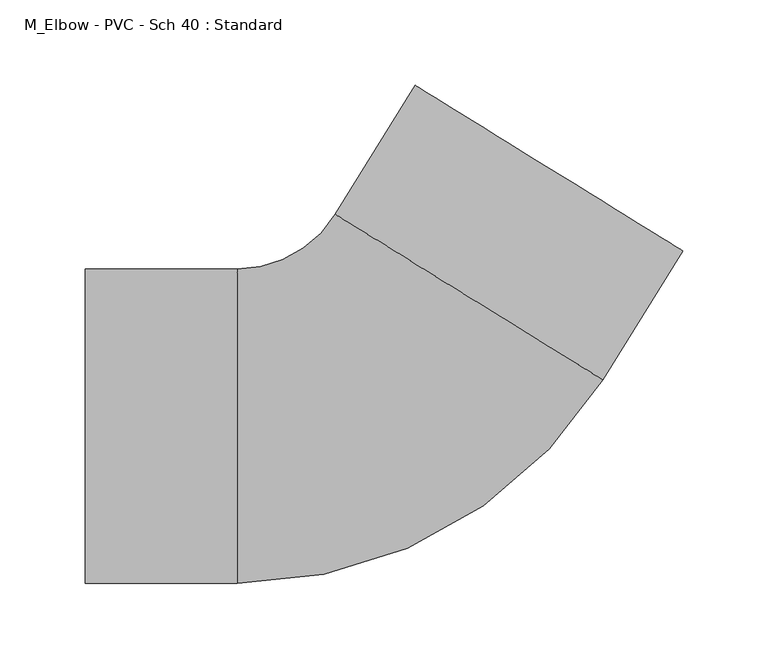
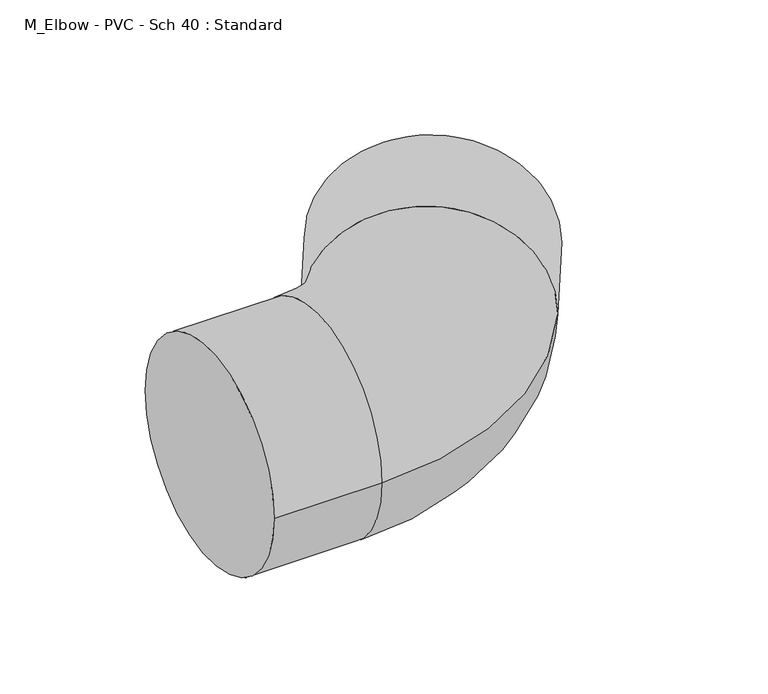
"""IFC4 building model written with IfcOpenShell, lengths in millimetres: pipe fitting geometry, M_Elbow - PVC - Sch 40 : Standard."""

from ifc_helpers import new_model, si_unit, point, frame, origin, place, context, project, spatial, circle_curve, ellipse_curve, trimmed, source, transform, mapped, element, save
from ifc_brep_helpers import plane_surface, cylinder_surface, revolved_surface, advanced_brep


def m_elbow_pvc_sch_40_standard_b928e138(model_context):
    return source(origin(), model_context, "Body", "AdvancedBrep", [
        advanced_brep(
        [(-177.8, -92.075, 0.0), (-177.8, 92.075, 0.0), (-88.9, -92.075, 0.0), (-88.9, 92.075, 0.0), (-31.4681718, 124.0595413, 0.0), (125.0870036, 27.0971798, 0.0), (171.8964195, 102.6755403, 0.0), (15.3412441, 199.6379018, 0.0)],
        [
            (0, 1, circle_curve(frame((-177.8, 0.0, 0.0), z_axis=(-1.0, 0.0, 0.0), x_axis=(0.0, 1.0, 0.0)), 92.075)),
            (1, 0, circle_curve(frame((-177.8, 0.0, 0.0), z_axis=(-1.0, 0.0, 0.0), x_axis=(0.0, 1.0, 0.0)), 92.075)),
            (0, 2),
            (2, 3, circle_curve(frame((-88.9, 0.0, 0.0), z_axis=(-1.0, 0.0, 0.0), x_axis=(0.0, 1.0, 0.0)), 92.075)),
            (3, 1),
            (3, 2, circle_curve(frame((-88.9, 0.0, 0.0), z_axis=(-1.0, 0.0, 0.0), x_axis=(0.0, 1.0, 0.0)), 92.075)),
            (4, 3, circle_curve(frame((-88.9, 159.6299124, 0.0), z_axis=(0.0, 0.0, -1.0), x_axis=(0.0, -1.0, 0.0)), 67.5549124)),
            (2, 5, circle_curve(frame((-88.9, 159.6299124, 0.0), z_axis=(0.0, 0.0, 1.0), x_axis=(0.0, -1.0, 0.0)), 251.7049124)),
            (5, 4, circle_curve(frame((46.8094159, 75.5783605, 0.0), z_axis=(-0.5265401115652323, -0.85015028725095, 0.0), x_axis=(-0.85015028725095, 0.5265401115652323, 0.0)), 92.075)),
            (4, 5, circle_curve(frame((46.8094159, 75.5783605, 0.0), z_axis=(-0.5265401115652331, -0.8501502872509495, 0.0), x_axis=(-0.8501502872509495, 0.5265401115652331, 0.0)), 92.075)),
            (6, 7, circle_curve(frame((93.6188318, 151.1567211, 0.0), z_axis=(0.5265401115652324, 0.8501502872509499, 0.0), x_axis=(-0.8501502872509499, 0.5265401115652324, 0.0)), 92.075)),
            (7, 6, circle_curve(frame((93.6188318, 151.1567211, 0.0), z_axis=(0.5265401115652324, 0.8501502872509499, 0.0), x_axis=(-0.8501502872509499, 0.5265401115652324, 0.0)), 92.075)),
            (5, 6),
            (7, 4),
        ],
        [
            plane_surface(frame((-177.8, 0.0, 0.0), z_axis=(-1.0, 0.0, 0.0), x_axis=(0.0, 0.0, 1.0))),
            cylinder_surface(frame((-177.8, 0.0, 0.0), z_axis=(-1.0, 0.0, 0.0), x_axis=(0.0, 1.0, 0.0)), 92.075),
            revolved_surface(trimmed(ellipse_curve(frame((-88.9, 0.0, 0.0), z_axis=(-1.0, 0.0, 0.0), x_axis=(0.0, 1.0, 0.0)), 92.075, 92.075), [point((-88.9, -92.075, 0.0))], [point((-88.9, 92.075, 0.0))], True, "CARTESIAN"), (-88.9, 159.6299124, 0.0), (0.0, 0.0, 1.0)),
            revolved_surface(trimmed(ellipse_curve(frame((-88.9, 0.0, 0.0), z_axis=(-1.0, 0.0, 0.0), x_axis=(0.0, 1.0, 0.0)), 92.075, 92.075), [point((-88.9, 92.075, 0.0))], [point((-88.9, -92.075, 0.0))], True, "CARTESIAN"), (-88.9, 159.6299124, 0.0), (0.0, 0.0, 1.0)),
            plane_surface(frame((93.6188318, 151.1567211, 0.0), z_axis=(0.5265401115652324, 0.85015028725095, 0.0), x_axis=(0.0, 0.0, 1.0))),
            cylinder_surface(frame((46.8094159, 75.5783605, 0.0), z_axis=(-0.5265401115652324, -0.8501502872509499, 0.0), x_axis=(-0.8501502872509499, 0.5265401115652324, 0.0)), 92.075),
        ],
        [
            (0, [[1, 2]]),
            (1, [[-1, 3, 4, 5]]),
            (1, [[-2, -5, 6, -3]]),
            (2, [[7, -4, 8, 9]]),
            (3, [[-8, -6, -7, 10]]),
            (4, [[11, 12]]),
            (5, [[-9, 13, -12, 14]]),
            (5, [[-10, -14, -11, -13]]),
        ],
    ),
    ])


if __name__ == "__main__":
    model = new_model("IFC4")
    model_context = context("Model", 3, world=origin())
    ifc_project = project(units=[si_unit("LENGTHUNIT", "METRE", prefix="MILLI")], contexts=[model_context])
    site = spatial("IfcSite", under=ifc_project)
    building = spatial("IfcBuilding", under=site)
    placement = place(None, origin())
    m_elbow_pvc_sch_40_standard_shape = m_elbow_pvc_sch_40_standard_b928e138(model_context)
    element("IfcPipeFitting", 1, ObjectType="M_Elbow - PVC - Sch 40 : Standard", at=placement, inside=building, context=model_context, shape_type="MappedRepresentation", body=[
        mapped(m_elbow_pvc_sch_40_standard_shape, transform((0.0, 0.0, 0.0), x_axis=(1.0, 0.0, 0.0), y_axis=(0.0, 1.0, 0.0), z_axis=(0.0, 0.0, 1.0))),
    ])
    save(model, "model.ifc")
